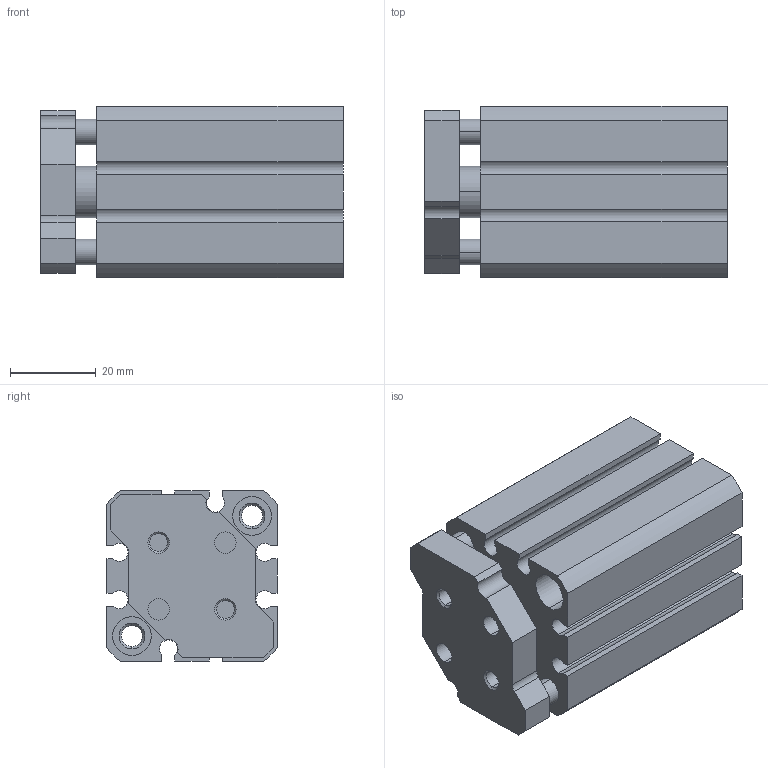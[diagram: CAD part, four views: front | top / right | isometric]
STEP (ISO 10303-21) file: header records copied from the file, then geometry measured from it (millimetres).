
FILE_DESCRIPTION (( 'STEP AP203' ), '1' );
FILE_NAME ('CCMG25-25.STEP', '2020-04-01T18:21:26', ( '' ), ( '' ), 'SwSTEP 2.0', 'SolidWorks 2019', '' );
FILE_SCHEMA (( 'CONFIG_CONTROL_DESIGN' ));
Length unit declared in the file: millimetre
Products named in the file (1): CCMG25-25
Bounding box: 70.5 x 40 x 40 mm (x, y, z)
Volume: 78068.4 mm3; surface area: 32049.3 mm2
Topology: 2 solids, 2 shells, 161 faces, 399 edges, 256 vertices
Faces by surface type: cylinder 77, plane 60, cone 24
Entity records: 4886 total; most frequent: DIRECTION 893, CARTESIAN_POINT 813, ORIENTED_EDGE 790, EDGE_CURVE 395, AXIS2_PLACEMENT_3D 336, VERTEX_POINT 256, LINE 221, VECTOR 221
